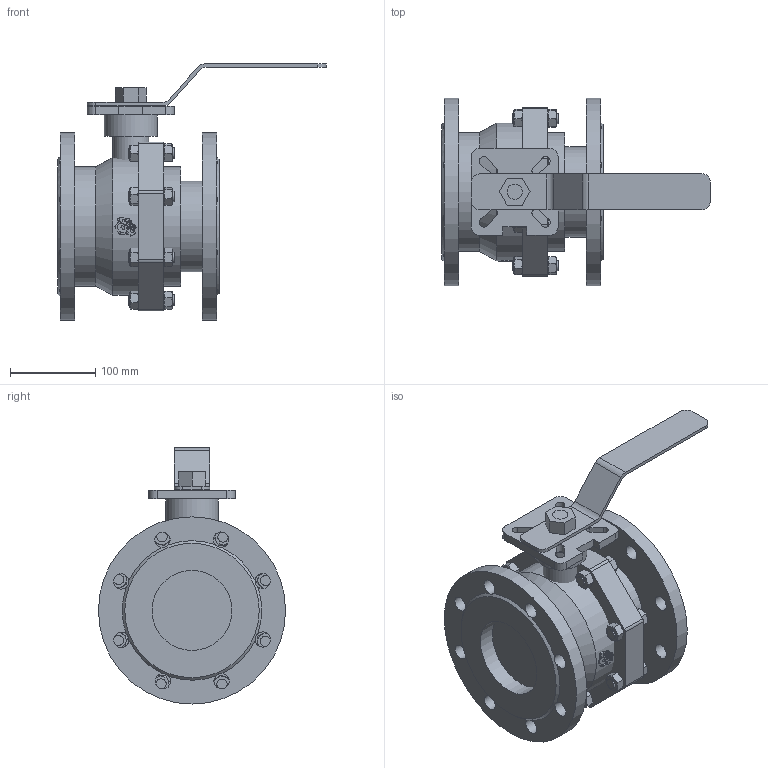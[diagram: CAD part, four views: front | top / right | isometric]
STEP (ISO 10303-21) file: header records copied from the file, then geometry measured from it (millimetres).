
FILE_DESCRIPTION(('STEP AP203'), '1');
FILE_NAME('3D_7528-100-16', '', ('UNSPECIFIED'), ('UNSPECIFIED'), 'C3D Converter', 'C3D Toolkit', '');
FILE_SCHEMA(('CONFIG_CONTROL_DESIGN'));
Length unit declared in the file: millimetre
Assembly tree (18 placements, depth 3):
  (unnamed)
    (unnamed)
      (unnamed)
      (unnamed)  x3
      (unnamed)
      (unnamed)
      (unnamed)  x2
    (unnamed)
      (unnamed)
      (unnamed)  x3
      (unnamed)
      (unnamed)
      (unnamed)  x2
Bounding box: 316 x 220 x 301 mm (x, y, z)
Volume: 4844876.5 mm3; surface area: 460755.6 mm2
Topology: 40 solids, 40 shells, 1185 faces, 3415 edges, 2302 vertices
Faces by surface type: plane 1039, cylinder 79, cone 67
Full cylindrical faces by diameter (mm): 8.5 x16, 12 x8, 18 x17, 42 x1, 62 x1, 94 x2, 106 x1, 140 x2, 162 x1, 220 x2
Entity records: 51923 total; most frequent: CARTESIAN_POINT 13061, ORIENTED_EDGE 6222, DIRECTION 5523, EDGE_CURVE 3111, LINE 2653, VECTOR 2653, VERTEX_POINT 2152, AXIS2_PLACEMENT_3D 1435
